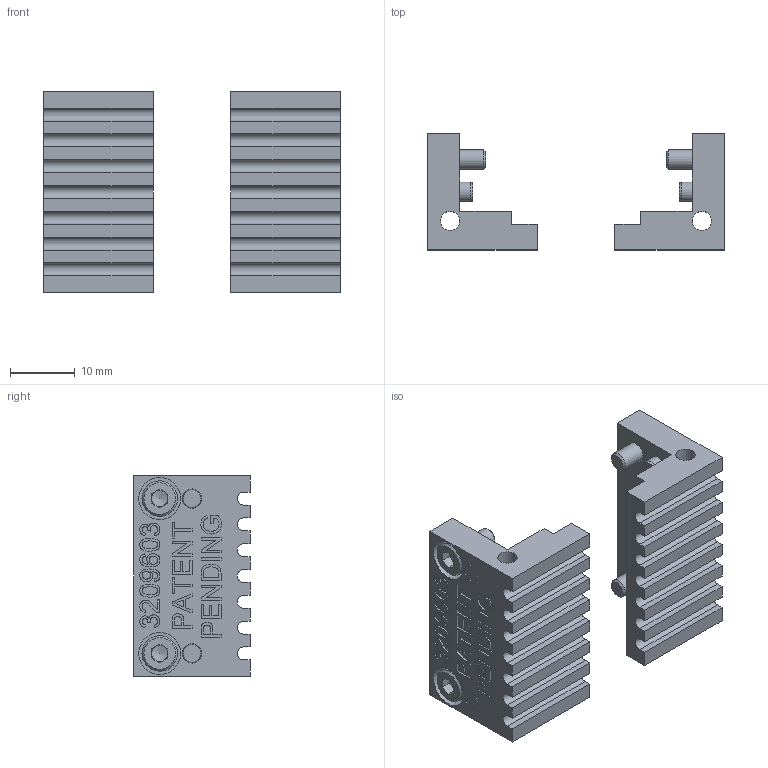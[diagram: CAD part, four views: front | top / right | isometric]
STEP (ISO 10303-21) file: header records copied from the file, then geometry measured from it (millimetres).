
FILE_DESCRIPTION (( 'STEP AP214' ), '1' );
FILE_NAME ('88001586_p.STEP', '2022-12-22T17:18:13', ( '' ), ( '' ), 'SwSTEP 2.0', 'SolidWorks 2018', '' );
FILE_SCHEMA (( 'AUTOMOTIVE_DESIGN' ));
Length unit declared in the file: millimetre
Products named in the file (2): 88001586_p
Bounding box: 46 x 18 x 31 mm (x, y, z)
Surface area: 7178.2 mm2 (no closed solid volume)
Topology: 0 solids, 14 shells, 721 faces, 1910 edges, 1260 vertices
Faces by surface type: plane 429, bspline 230, cylinder 42, cone 20
Full cylindrical faces by diameter (mm): 3 x16, 3.4 x4, 5.5 x4, 6.5 x4
Entity records: 42155 total; most frequent: CARTESIAN_POINT 18027, ORIENTED_EDGE 3671, DIRECTION 2500, EDGE_CURVE 1854, VECTOR 1266, LINE 1266, VERTEX_POINT 1252, EDGE_LOOP 845
